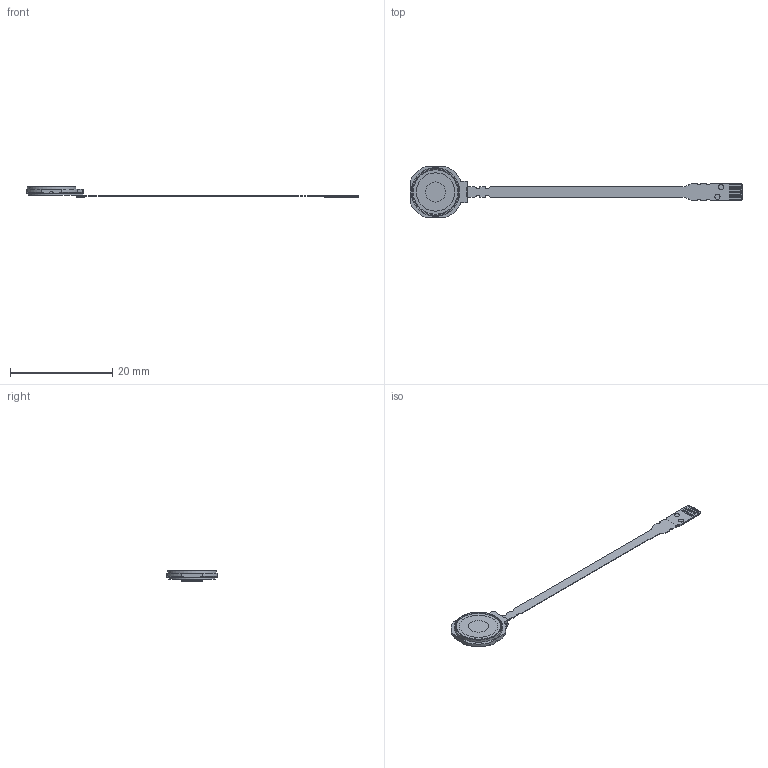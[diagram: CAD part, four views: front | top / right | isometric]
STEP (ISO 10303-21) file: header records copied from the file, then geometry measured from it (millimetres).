
FILE_DESCRIPTION (( 'STEP AP214' ), '1' );
FILE_NAME ('185-000-XX.STEP', '2025-10-15T14:01:11', ( '' ), ( '' ), 'SwSTEP 2.0', 'SolidWorks 2024', '' );
FILE_SCHEMA (( 'AUTOMOTIVE_DESIGN' ));
Length unit declared in the file: millimetre
Products named in the file (3): 185-000-XX; 184-108-XX; 186-560-00
Assembly tree (2 placements, depth 2):
  185-000-XX
    184-108-XX
    186-560-00
Bounding box: 65 x 10 x 2.12 mm (x, y, z)
Volume: 93.7 mm3; surface area: 795.2 mm2
Topology: 17 solids, 17 shells, 262 faces, 642 edges, 427 vertices
Faces by surface type: plane 159, cylinder 81, cone 16, bspline 5, torus 1
Full cylindrical faces by diameter (mm): 1 x2, 3.3 x1, 3.8 x1, 3.92 x1, 7.5 x1, 8.7 x1, 9.108 x1
Entity records: 8040 total; most frequent: CARTESIAN_POINT 1637, DIRECTION 1276, ORIENTED_EDGE 1246, EDGE_CURVE 623, AXIS2_PLACEMENT_3D 439, VERTEX_POINT 425, LINE 398, VECTOR 398
